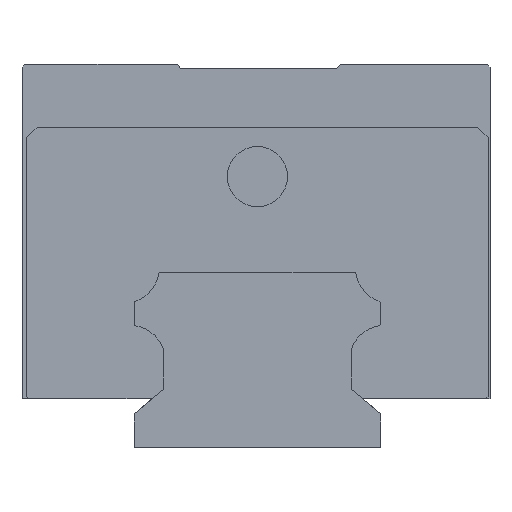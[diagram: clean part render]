
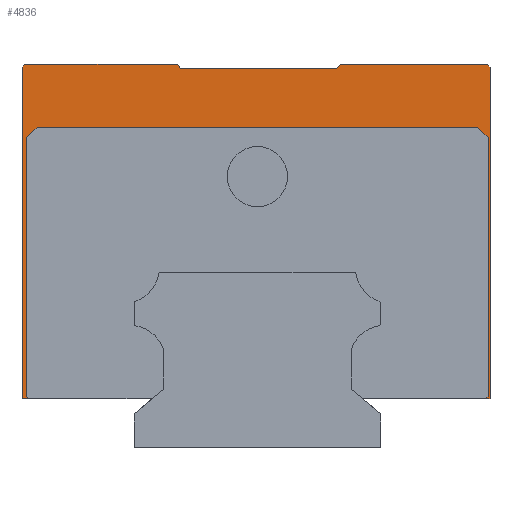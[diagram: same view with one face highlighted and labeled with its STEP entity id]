
A CAD part, left-side view. The second image highlights one B-rep face of the part: STEP entity #4836.
In plain terms, the highlighted planar face has unit normal (-1, 0, 0).
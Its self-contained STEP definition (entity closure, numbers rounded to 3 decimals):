
#13 = EDGE_CURVE ( 'NONE', #6264, #738, #13262, .T. ) ;
#75 = ORIENTED_EDGE ( 'NONE', *, *, #2442, .F. ) ;
#95 = CARTESIAN_POINT ( 'NONE',  ( -53., 42.15, 56.6 ) ) ;
#456 = LINE ( 'NONE', #10806, #9508 ) ;
#548 = CARTESIAN_POINT ( 'NONE',  ( -53., -43., 8.9 ) ) ;
#612 = DIRECTION ( 'NONE',  ( 0., 0.707, -0.707 ) ) ;
#738 = VERTEX_POINT ( 'NONE', #12257 ) ;
#803 = ORIENTED_EDGE ( 'NONE', *, *, #12172, .F. ) ;
#993 = VECTOR ( 'NONE', #11822, 1000. ) ;
#1229 = CARTESIAN_POINT ( 'NONE',  ( -53., -41.75, 8.9 ) ) ;
#1238 = EDGE_CURVE ( 'NONE', #5099, #9807, #1589, .T. ) ;
#1263 = ORIENTED_EDGE ( 'NONE', *, *, #5727, .T. ) ;
#1308 = ORIENTED_EDGE ( 'NONE', *, *, #13, .F. ) ;
#1328 = DIRECTION ( 'NONE',  ( 0., 0.707, 0.707 ) ) ;
#1337 = EDGE_CURVE ( 'NONE', #7765, #13647, #11518, .T. ) ;
#1411 = DIRECTION ( 'NONE',  ( 0., 0., 1. ) ) ;
#1470 = LINE ( 'NONE', #11828, #3537 ) ;
#1557 = EDGE_LOOP ( 'NONE', ( #9605, #10483, #5530, #2816, #11481, #4324, #8128, #1308, #803, #11257, #12807, #1263, #2468, #4029, #75, #9430, #12825, #4219 ) ) ;
#1589 = LINE ( 'NONE', #5848, #3356 ) ;
#1623 = LINE ( 'NONE', #6863, #3816 ) ;
#1928 = VERTEX_POINT ( 'NONE', #12952 ) ;
#1961 = CARTESIAN_POINT ( 'NONE',  ( -53., 42.15, 56.6 ) ) ;
#1998 = CARTESIAN_POINT ( 'NONE',  ( -53., -14.5, 69.25 ) ) ;
#2062 = DIRECTION ( 'NONE',  ( 1., 0., 0. ) ) ;
#2118 = VECTOR ( 'NONE', #12556, 1000. ) ;
#2192 = VECTOR ( 'NONE', #1328, 1000. ) ;
#2209 = EDGE_CURVE ( 'NONE', #8756, #9646, #7754, .T. ) ;
#2282 = DIRECTION ( 'NONE',  ( 0., 0.707, 0.707 ) ) ;
#2320 = DIRECTION ( 'NONE',  ( 0., 0., 1. ) ) ;
#2387 = LINE ( 'NONE', #6652, #7115 ) ;
#2442 = EDGE_CURVE ( 'NONE', #8939, #1928, #13755, .T. ) ;
#2468 = ORIENTED_EDGE ( 'NONE', *, *, #7718, .T. ) ;
#2720 = CARTESIAN_POINT ( 'NONE',  ( -53., -42.15, 9.3 ) ) ;
#2816 = ORIENTED_EDGE ( 'NONE', *, *, #7163, .F. ) ;
#2833 = EDGE_CURVE ( 'NONE', #5901, #13692, #2387, .T. ) ;
#2969 = CARTESIAN_POINT ( 'NONE',  ( -53., -42.5, 70. ) ) ;
#3117 = DIRECTION ( 'NONE',  ( 0., -0.707, -0.707 ) ) ;
#3286 = LINE ( 'NONE', #10972, #993 ) ;
#3356 = VECTOR ( 'NONE', #612, 1000. ) ;
#3382 = CARTESIAN_POINT ( 'NONE',  ( -53., 43., 8.9 ) ) ;
#3537 = VECTOR ( 'NONE', #5730, 1000. ) ;
#3683 = DIRECTION ( 'NONE',  ( 0., 1., 0. ) ) ;
#3816 = VECTOR ( 'NONE', #11983, 1000. ) ;
#4017 = VECTOR ( 'NONE', #4792, 1000. ) ;
#4029 = ORIENTED_EDGE ( 'NONE', *, *, #11074, .T. ) ;
#4102 = DIRECTION ( 'NONE',  ( 0., -1., 0. ) ) ;
#4105 = CARTESIAN_POINT ( 'NONE',  ( -53., 42.15, 9.3 ) ) ;
#4203 = EDGE_CURVE ( 'NONE', #13647, #5901, #1470, .T. ) ;
#4219 = ORIENTED_EDGE ( 'NONE', *, *, #4203, .F. ) ;
#4324 = ORIENTED_EDGE ( 'NONE', *, *, #12501, .F. ) ;
#4792 = DIRECTION ( 'NONE',  ( 0., 0.707, -0.707 ) ) ;
#4836 = ADVANCED_FACE ( 'NONE', ( #6113 ), #9347, .F. ) ;
#5026 = VECTOR ( 'NONE', #1411, 1000. ) ;
#5099 = VERTEX_POINT ( 'NONE', #9864 ) ;
#5142 = DIRECTION ( 'NONE',  ( 0., 1., 0. ) ) ;
#5215 = CARTESIAN_POINT ( 'NONE',  ( -53., 42.15, 9.3 ) ) ;
#5281 = LINE ( 'NONE', #2969, #6814 ) ;
#5530 = ORIENTED_EDGE ( 'NONE', *, *, #1238, .F. ) ;
#5534 = DIRECTION ( 'NONE',  ( 0., 0., -1. ) ) ;
#5604 = LINE ( 'NONE', #6521, #5026 ) ;
#5671 = LINE ( 'NONE', #95, #12188 ) ;
#5727 = EDGE_CURVE ( 'NONE', #6086, #9060, #10251, .T. ) ;
#5730 = DIRECTION ( 'NONE',  ( 0., 1., 0. ) ) ;
#5848 = CARTESIAN_POINT ( 'NONE',  ( -53., 40.25, 58.5 ) ) ;
#5881 = EDGE_CURVE ( 'NONE', #738, #7714, #12830, .T. ) ;
#5901 = VERTEX_POINT ( 'NONE', #3382 ) ;
#5933 = CARTESIAN_POINT ( 'NONE',  ( -53., -14.5, 69.25 ) ) ;
#6050 = CARTESIAN_POINT ( 'NONE',  ( -53., -43., 70. ) ) ;
#6086 = VERTEX_POINT ( 'NONE', #6525 ) ;
#6113 = FACE_OUTER_BOUND ( 'NONE', #1557, .T. ) ;
#6264 = VERTEX_POINT ( 'NONE', #10926 ) ;
#6521 = CARTESIAN_POINT ( 'NONE',  ( -53., -42.15, 9.3 ) ) ;
#6525 = CARTESIAN_POINT ( 'NONE',  ( -53., -15.129, 70. ) ) ;
#6652 = CARTESIAN_POINT ( 'NONE',  ( -53., 43., 8.9 ) ) ;
#6814 = VECTOR ( 'NONE', #9558, 1000. ) ;
#6863 = CARTESIAN_POINT ( 'NONE',  ( -53., -40.25, 58.5 ) ) ;
#6937 = CARTESIAN_POINT ( 'NONE',  ( -53., -42., 70. ) ) ;
#6983 = LINE ( 'NONE', #5933, #13157 ) ;
#6996 = CARTESIAN_POINT ( 'NONE',  ( -53., -42.15, 56.6 ) ) ;
#7104 = VECTOR ( 'NONE', #4102, 1000. ) ;
#7115 = VECTOR ( 'NONE', #2320, 1000. ) ;
#7163 = EDGE_CURVE ( 'NONE', #10636, #5099, #1623, .T. ) ;
#7266 = VERTEX_POINT ( 'NONE', #8830 ) ;
#7521 = DIRECTION ( 'NONE',  ( 0., -0.707, 0.707 ) ) ;
#7714 = VERTEX_POINT ( 'NONE', #2720 ) ;
#7718 = EDGE_CURVE ( 'NONE', #9060, #7266, #6983, .T. ) ;
#7754 = LINE ( 'NONE', #11759, #2192 ) ;
#7765 = VERTEX_POINT ( 'NONE', #4105 ) ;
#8078 = CARTESIAN_POINT ( 'NONE',  ( -53., 42.5, 70. ) ) ;
#8128 = ORIENTED_EDGE ( 'NONE', *, *, #5881, .F. ) ;
#8728 = CARTESIAN_POINT ( 'NONE',  ( -53., -42.5, 69.5 ) ) ;
#8756 = VERTEX_POINT ( 'NONE', #8728 ) ;
#8830 = CARTESIAN_POINT ( 'NONE',  ( -53., 14., 69.25 ) ) ;
#8936 = VECTOR ( 'NONE', #2282, 1000. ) ;
#8939 = VERTEX_POINT ( 'NONE', #13333 ) ;
#9060 = VERTEX_POINT ( 'NONE', #1998 ) ;
#9098 = EDGE_CURVE ( 'NONE', #12638, #10636, #11588, .T. ) ;
#9289 = EDGE_CURVE ( 'NONE', #8939, #13692, #10247, .T. ) ;
#9347 = PLANE ( 'NONE',  #10802 ) ;
#9363 = CARTESIAN_POINT ( 'NONE',  ( -53., 42.5, 70. ) ) ;
#9420 = VECTOR ( 'NONE', #3117, 1000. ) ;
#9430 = ORIENTED_EDGE ( 'NONE', *, *, #9289, .T. ) ;
#9508 = VECTOR ( 'NONE', #13105, 1000. ) ;
#9558 = DIRECTION ( 'NONE',  ( 0., 0., -1. ) ) ;
#9605 = ORIENTED_EDGE ( 'NONE', *, *, #1337, .F. ) ;
#9630 = CARTESIAN_POINT ( 'NONE',  ( -53., -40.25, 58.5 ) ) ;
#9646 = VERTEX_POINT ( 'NONE', #6937 ) ;
#9807 = VERTEX_POINT ( 'NONE', #1961 ) ;
#9864 = CARTESIAN_POINT ( 'NONE',  ( -53., 40.25, 58.5 ) ) ;
#9934 = CARTESIAN_POINT ( 'NONE',  ( -53., 43., 69.5 ) ) ;
#10247 = LINE ( 'NONE', #8078, #4017 ) ;
#10251 = LINE ( 'NONE', #11443, #2118 ) ;
#10483 = ORIENTED_EDGE ( 'NONE', *, *, #12522, .F. ) ;
#10611 = VECTOR ( 'NONE', #7521, 1000. ) ;
#10636 = VERTEX_POINT ( 'NONE', #9630 ) ;
#10770 = VECTOR ( 'NONE', #3683, 1000. ) ;
#10802 = AXIS2_PLACEMENT_3D ( 'NONE', #6050, #2062, #5142 ) ;
#10806 = CARTESIAN_POINT ( 'NONE',  ( -53., 42.5, 70. ) ) ;
#10926 = CARTESIAN_POINT ( 'NONE',  ( -53., -42.5, 8.9 ) ) ;
#10972 = CARTESIAN_POINT ( 'NONE',  ( -53., 14., 69.25 ) ) ;
#11074 = EDGE_CURVE ( 'NONE', #7266, #1928, #3286, .T. ) ;
#11257 = ORIENTED_EDGE ( 'NONE', *, *, #2209, .T. ) ;
#11330 = DIRECTION ( 'NONE',  ( 0., 1., 0. ) ) ;
#11443 = CARTESIAN_POINT ( 'NONE',  ( -53., -15.129, 70. ) ) ;
#11481 = ORIENTED_EDGE ( 'NONE', *, *, #9098, .F. ) ;
#11518 = LINE ( 'NONE', #5215, #9420 ) ;
#11588 = LINE ( 'NONE', #12704, #8936 ) ;
#11759 = CARTESIAN_POINT ( 'NONE',  ( -53., -42.5, 69.5 ) ) ;
#11822 = DIRECTION ( 'NONE',  ( 0., 0.643, 0.766 ) ) ;
#11828 = CARTESIAN_POINT ( 'NONE',  ( -53., 19.554, 8.9 ) ) ;
#11983 = DIRECTION ( 'NONE',  ( 0., 1., 0. ) ) ;
#12172 = EDGE_CURVE ( 'NONE', #8756, #6264, #5281, .T. ) ;
#12188 = VECTOR ( 'NONE', #5534, 1000. ) ;
#12257 = CARTESIAN_POINT ( 'NONE',  ( -53., -41.75, 8.9 ) ) ;
#12274 = EDGE_CURVE ( 'NONE', #6086, #9646, #456, .T. ) ;
#12501 = EDGE_CURVE ( 'NONE', #7714, #12638, #5604, .T. ) ;
#12522 = EDGE_CURVE ( 'NONE', #9807, #7765, #5671, .T. ) ;
#12556 = DIRECTION ( 'NONE',  ( 0., 0.643, -0.766 ) ) ;
#12638 = VERTEX_POINT ( 'NONE', #6996 ) ;
#12704 = CARTESIAN_POINT ( 'NONE',  ( -53., -42.15, 56.6 ) ) ;
#12801 = CARTESIAN_POINT ( 'NONE',  ( -53., 41.75, 8.9 ) ) ;
#12807 = ORIENTED_EDGE ( 'NONE', *, *, #12274, .F. ) ;
#12825 = ORIENTED_EDGE ( 'NONE', *, *, #2833, .F. ) ;
#12830 = LINE ( 'NONE', #1229, #10611 ) ;
#12952 = CARTESIAN_POINT ( 'NONE',  ( -53., 14.629, 70. ) ) ;
#13105 = DIRECTION ( 'NONE',  ( 0., -1., 0. ) ) ;
#13157 = VECTOR ( 'NONE', #11330, 1000. ) ;
#13262 = LINE ( 'NONE', #548, #10770 ) ;
#13333 = CARTESIAN_POINT ( 'NONE',  ( -53., 42.5, 70. ) ) ;
#13647 = VERTEX_POINT ( 'NONE', #12801 ) ;
#13692 = VERTEX_POINT ( 'NONE', #9934 ) ;
#13755 = LINE ( 'NONE', #9363, #7104 ) ;
